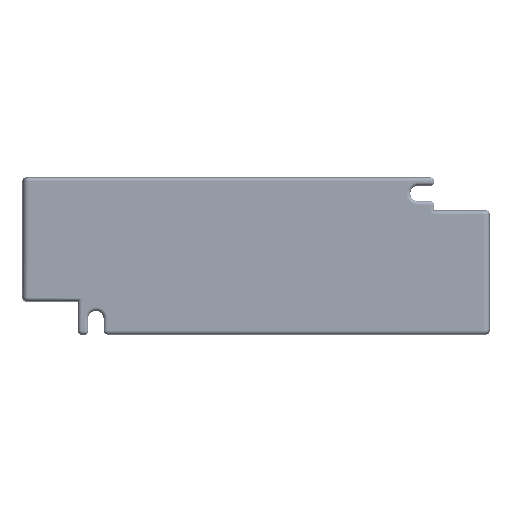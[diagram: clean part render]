
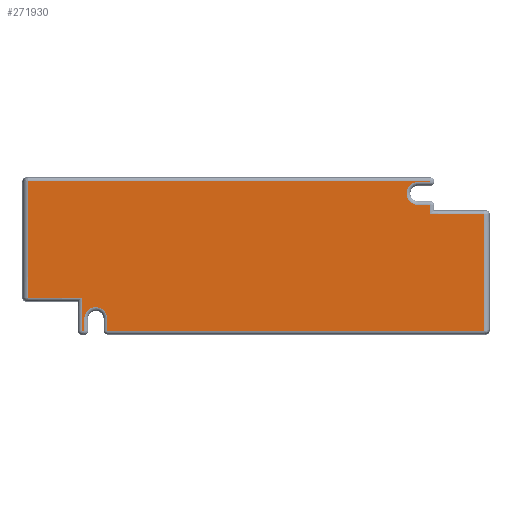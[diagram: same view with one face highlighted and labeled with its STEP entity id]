
A CAD part, front view. The second image highlights one B-rep face of the part: STEP entity #271930.
In plain terms, the highlighted planar face has unit normal (0, -1, 0).
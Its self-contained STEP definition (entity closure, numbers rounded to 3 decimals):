
#80797=DIRECTION('',(1.,0.,0.));
#80798=VECTOR('',#80797,102.238);
#80799=CARTESIAN_POINT('',(36.247,-7.231,
-44.727));
#80800=LINE('',#80799,#80798);
#80804=CARTESIAN_POINT('',(138.485,-7.231,
-44.727));
#80823=CARTESIAN_POINT('',(33.129,-7.231,
-41.416));
#80824=DIRECTION('',(0.,-1.,0.));
#80825=DIRECTION('',(1.,0.,0.));
#80826=AXIS2_PLACEMENT_3D('',#80823,#80824,#80825);
#80831=CARTESIAN_POINT('',(33.129,-7.231,
-41.416));
#80832=DIRECTION('',(0.,-1.,0.));
#80833=DIRECTION('',(0.,0.,1.));
#80834=AXIS2_PLACEMENT_3D('',#80831,#80832,#80833);
#80839=CARTESIAN_POINT('',(120.625,-7.231,
-7.416));
#80840=DIRECTION('',(0.,-1.,0.));
#80841=DIRECTION('',(0.,0.,1.));
#80842=AXIS2_PLACEMENT_3D('',#80839,#80840,#80841);
#80847=DIRECTION('',(0.,0.,-1.));
#80848=VECTOR('',#80847,3.311);
#80849=CARTESIAN_POINT('',(36.247,-7.231,
-41.416));
#80850=LINE('',#80849,#80848);
#80906=DIRECTION('',(0.,0.,1.));
#80907=VECTOR('',#80906,3.382);
#80908=CARTESIAN_POINT('',(30.011,-7.231,
-44.798));
#80909=LINE('',#80908,#80907);
#80933=DIRECTION('',(1.,0.,0.));
#80934=VECTOR('',#80933,0.752);
#80935=CARTESIAN_POINT('',(29.259,-7.231,
-44.798));
#80936=LINE('',#80935,#80934);
#80973=DIRECTION('',(0.,0.,-1.));
#80974=VECTOR('',#80973,9.072);
#80975=CARTESIAN_POINT('',(29.259,-7.231,
-35.727));
#80976=LINE('',#80975,#80974);
#80994=DIRECTION('',(1.,0.,0.));
#80995=VECTOR('',#80994,14.487);
#80996=CARTESIAN_POINT('',(14.773,-7.231,
-35.727));
#80997=LINE('',#80996,#80995);
#81608=DIRECTION('',(0.,0.,-1.));
#81609=VECTOR('',#81608,31.622);
#81610=CARTESIAN_POINT('',(14.773,-7.231,
-4.105));
#81611=LINE('',#81610,#81609);
#81835=DIRECTION('',(-1.,0.,0.));
#81836=VECTOR('',#81835,109.225);
#81837=CARTESIAN_POINT('',(123.999,-7.231,
-4.105));
#81838=LINE('',#81837,#81836);
#113831=DIRECTION('',(0.,0.,1.));
#113832=VECTOR('',#113831,31.622);
#113833=CARTESIAN_POINT('',(138.485,-7.231,
-44.727));
#113834=LINE('',#113833,#113832);
#113899=DIRECTION('',(-1.,0.,0.));
#113900=VECTOR('',#113899,14.487);
#113901=CARTESIAN_POINT('',(138.485,-7.231,
-13.105));
#113902=LINE('',#113901,#113900);
#113926=DIRECTION('',(0.,0.,1.));
#113927=VECTOR('',#113926,2.572);
#113928=CARTESIAN_POINT('',(123.999,-7.231,
-13.105));
#113929=LINE('',#113928,#113927);
#113966=DIRECTION('',(-1.,0.,0.));
#113967=VECTOR('',#113966,3.374);
#113968=CARTESIAN_POINT('',(123.999,-7.231,
-10.534));
#113969=LINE('',#113968,#113967);
#114011=DIRECTION('',(1.,0.,0.));
#114012=VECTOR('',#114011,3.374);
#114013=CARTESIAN_POINT('',(120.625,-7.231,
-4.298));
#114014=LINE('',#114013,#114012);
#114397=DIRECTION('',(0.,0.,1.));
#114398=VECTOR('',#114397,0.193);
#114399=CARTESIAN_POINT('',(123.999,-7.231,
-4.298));
#114400=LINE('',#114399,#114398);
#173925=VERTEX_POINT('',#80804);
#173926=CARTESIAN_POINT('',(36.247,-7.231,
-44.727));
#173927=VERTEX_POINT('',#173926);
#173928=CARTESIAN_POINT('',(36.247,-7.231,
-41.416));
#173929=VERTEX_POINT('',#173928);
#173930=CARTESIAN_POINT('',(33.129,-7.231,
-38.298));
#173931=VERTEX_POINT('',#173930);
#173932=CARTESIAN_POINT('',(30.011,-7.231,
-41.416));
#173933=VERTEX_POINT('',#173932);
#173934=CARTESIAN_POINT('',(30.011,-7.231,
-44.798));
#173935=VERTEX_POINT('',#173934);
#173936=CARTESIAN_POINT('',(29.259,-7.231,
-44.798));
#173937=VERTEX_POINT('',#173936);
#173938=CARTESIAN_POINT('',(29.259,-7.231,
-35.727));
#173939=VERTEX_POINT('',#173938);
#173940=CARTESIAN_POINT('',(14.773,-7.231,
-35.727));
#173941=VERTEX_POINT('',#173940);
#173942=CARTESIAN_POINT('',(14.773,-7.231,
-4.105));
#173943=VERTEX_POINT('',#173942);
#173944=CARTESIAN_POINT('',(123.999,-7.231,
-4.105));
#173945=VERTEX_POINT('',#173944);
#173946=CARTESIAN_POINT('',(123.999,-7.231,
-4.298));
#173947=VERTEX_POINT('',#173946);
#173948=CARTESIAN_POINT('',(120.625,-7.231,
-4.298));
#173949=VERTEX_POINT('',#173948);
#173950=CARTESIAN_POINT('',(120.625,-7.231,
-10.534));
#173951=VERTEX_POINT('',#173950);
#173952=CARTESIAN_POINT('',(123.999,-7.231,
-10.534));
#173953=VERTEX_POINT('',#173952);
#173954=CARTESIAN_POINT('',(123.999,-7.231,
-13.105));
#173955=VERTEX_POINT('',#173954);
#173956=CARTESIAN_POINT('',(138.485,-7.231,
-13.105));
#173957=VERTEX_POINT('',#173956);
#271890=CARTESIAN_POINT('',(13.652,-7.231,
-38.435));
#271891=DIRECTION('',(0.,1.,0.));
#271892=DIRECTION('',(0.,0.,1.));
#271893=AXIS2_PLACEMENT_3D('',#271890,#271891,#271892);
#271894=PLANE('',#271893);
#271895=ORIENTED_EDGE('',*,*,#271881,.F.);
#271897=ORIENTED_EDGE('',*,*,#271896,.F.);
#271899=ORIENTED_EDGE('',*,*,#271898,.T.);
#271901=ORIENTED_EDGE('',*,*,#271900,.T.);
#271903=ORIENTED_EDGE('',*,*,#271902,.F.);
#271905=ORIENTED_EDGE('',*,*,#271904,.F.);
#271907=ORIENTED_EDGE('',*,*,#271906,.F.);
#271909=ORIENTED_EDGE('',*,*,#271908,.F.);
#271911=ORIENTED_EDGE('',*,*,#271910,.F.);
#271913=ORIENTED_EDGE('',*,*,#271912,.F.);
#271915=ORIENTED_EDGE('',*,*,#271914,.F.);
#271917=ORIENTED_EDGE('',*,*,#271916,.F.);
#271919=ORIENTED_EDGE('',*,*,#271918,.T.);
#271921=ORIENTED_EDGE('',*,*,#271920,.F.);
#271923=ORIENTED_EDGE('',*,*,#271922,.F.);
#271925=ORIENTED_EDGE('',*,*,#271924,.F.);
#271927=ORIENTED_EDGE('',*,*,#271926,.F.);
#271928=EDGE_LOOP('',(#271895,#271897,#271899,#271901,#271903,#271905,#271907,
#271909,#271911,#271913,#271915,#271917,#271919,#271921,#271923,#271925,
#271927));
#271929=FACE_OUTER_BOUND('',#271928,.F.);
#80827=CIRCLE('',#80826,3.118);
#80835=CIRCLE('',#80834,3.118);
#80843=CIRCLE('',#80842,3.118);
#271881=EDGE_CURVE('',#173927,#173925,#80800,.T.);
#271896=EDGE_CURVE('',#173929,#173927,#80850,.T.);
#271898=EDGE_CURVE('',#173929,#173931,#80827,.T.);
#271900=EDGE_CURVE('',#173931,#173933,#80835,.T.);
#271902=EDGE_CURVE('',#173935,#173933,#80909,.T.);
#271904=EDGE_CURVE('',#173937,#173935,#80936,.T.);
#271906=EDGE_CURVE('',#173939,#173937,#80976,.T.);
#271908=EDGE_CURVE('',#173941,#173939,#80997,.T.);
#271910=EDGE_CURVE('',#173943,#173941,#81611,.T.);
#271912=EDGE_CURVE('',#173945,#173943,#81838,.T.);
#271914=EDGE_CURVE('',#173947,#173945,#114400,.T.);
#271916=EDGE_CURVE('',#173949,#173947,#114014,.T.);
#271918=EDGE_CURVE('',#173949,#173951,#80843,.T.);
#271920=EDGE_CURVE('',#173953,#173951,#113969,.T.);
#271922=EDGE_CURVE('',#173955,#173953,#113929,.T.);
#271924=EDGE_CURVE('',#173957,#173955,#113902,.T.);
#271926=EDGE_CURVE('',#173925,#173957,#113834,.T.);
#271930=ADVANCED_FACE('',(#271929),#271894,.F.);
